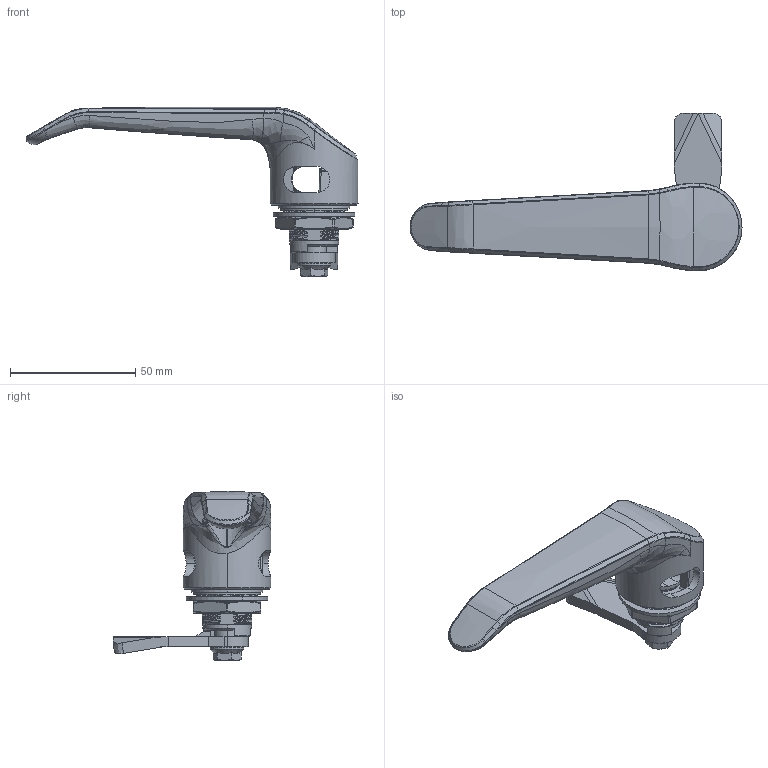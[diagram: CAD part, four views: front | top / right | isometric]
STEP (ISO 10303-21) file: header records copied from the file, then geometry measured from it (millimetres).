
FILE_DESCRIPTION (( 'STEP AP214' ), '1' );
FILE_NAME ('CUYUE B-1308 .STEP', '2026-06-18T05:36:18', ( '' ), ( '' ), 'SwSTEP 2.0', 'SolidWorks 2020', '' );
FILE_SCHEMA (( 'AUTOMOTIVE_DESIGN' ));
Length unit declared in the file: millimetre
Products named in the file (10): B-1308蚾饜极_sldasm.sldasm-Part-3; CUYUE B-1308 ; B-1308蚾饜极_sldasm.sldasm-Part-5; B-1308蚾饜极_sldasm.sldasm-Part-6; B-1308蚾饜极_sldasm.sldasm-Part-9; B-1308蚾饜极_sldasm.sldasm-Part-7; B-1308蚾饜极_sldasm.sldasm-Part-2; B-1308蚾饜极_sldasm.sldasm-Part-1; B-1308蚾饜极_sldasm.sldasm-Part-8; B-1308蚾饜极_sldasm.sldasm-Part-4
Assembly tree (9 placements, depth 2):
  CUYUE B-1308 
    B-1308蚾饜极_sldasm.sldasm-Part-1
    B-1308蚾饜极_sldasm.sldasm-Part-2
    B-1308蚾饜极_sldasm.sldasm-Part-3
    B-1308蚾饜极_sldasm.sldasm-Part-4
    B-1308蚾饜极_sldasm.sldasm-Part-5
    B-1308蚾饜极_sldasm.sldasm-Part-6
    B-1308蚾饜极_sldasm.sldasm-Part-7
    B-1308蚾饜极_sldasm.sldasm-Part-8
    B-1308蚾饜极_sldasm.sldasm-Part-9
Bounding box: 132.39 x 63 x 67.49 mm (x, y, z)
Volume: 48921.3 mm3; surface area: 26871.1 mm2
Topology: 9 solids, 9 shells, 962 faces, 2488 edges, 1515 vertices
Faces by surface type: bspline 443, cylinder 302, plane 165, cone 43, torus 9
Entity records: 53282 total; most frequent: CARTESIAN_POINT 34401, ORIENTED_EDGE 4910, EDGE_CURVE 2455, DIRECTION 2299, VERTEX_POINT 1515, B_SPLINE_CURVE_WITH_KNOTS 1439, EDGE_LOOP 986, FACE_OUTER_BOUND 962
